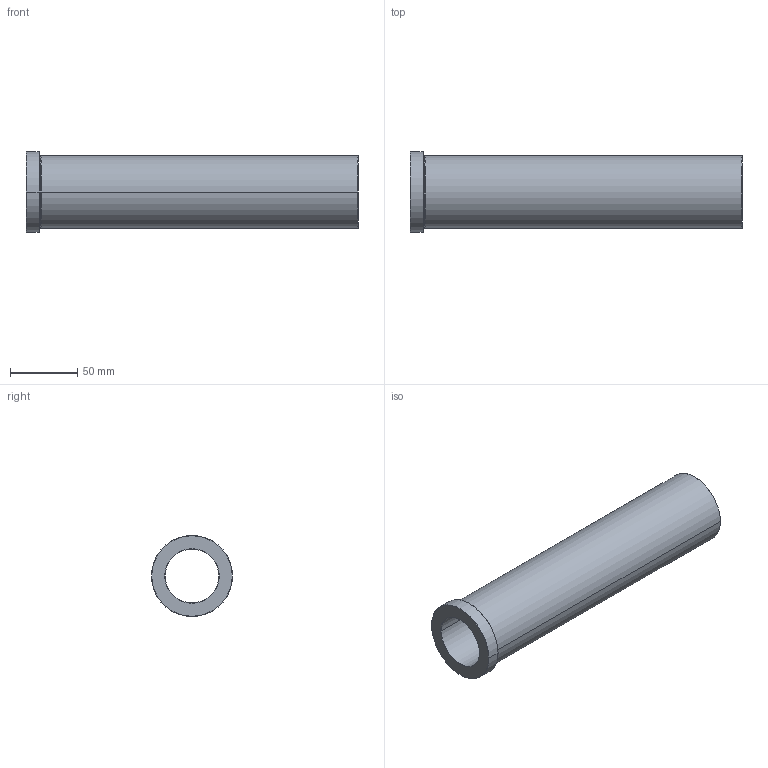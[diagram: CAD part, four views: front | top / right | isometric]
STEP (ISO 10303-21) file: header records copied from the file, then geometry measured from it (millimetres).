
FILE_DESCRIPTION (( 'STEP AP214' ), '1' );
FILE_NAME ('R03_246x40.STEP', '2015-03-05T14:48:41', ( 'TGL' ), ( '' ), 'SwSTEP 2.0', 'SolidWorks 2011', '' );
FILE_SCHEMA (( 'AUTOMOTIVE_DESIGN' ));
Length unit declared in the file: millimetre
Products named in the file (1): R03_246x40
Bounding box: 246 x 60 x 60 mm (x, y, z)
Volume: 258596.2 mm3; surface area: 75748.7 mm2
Topology: 1 solids, 1 shells, 24 faces, 48 edges, 28 vertices
Faces by surface type: cone 10, cylinder 8, plane 4, torus 2
Entity records: 730 total; most frequent: DIRECTION 128, CARTESIAN_POINT 101, ORIENTED_EDGE 96, AXIS2_PLACEMENT_3D 55, EDGE_CURVE 48, CIRCLE 30, VERTEX_POINT 28, EDGE_LOOP 28
